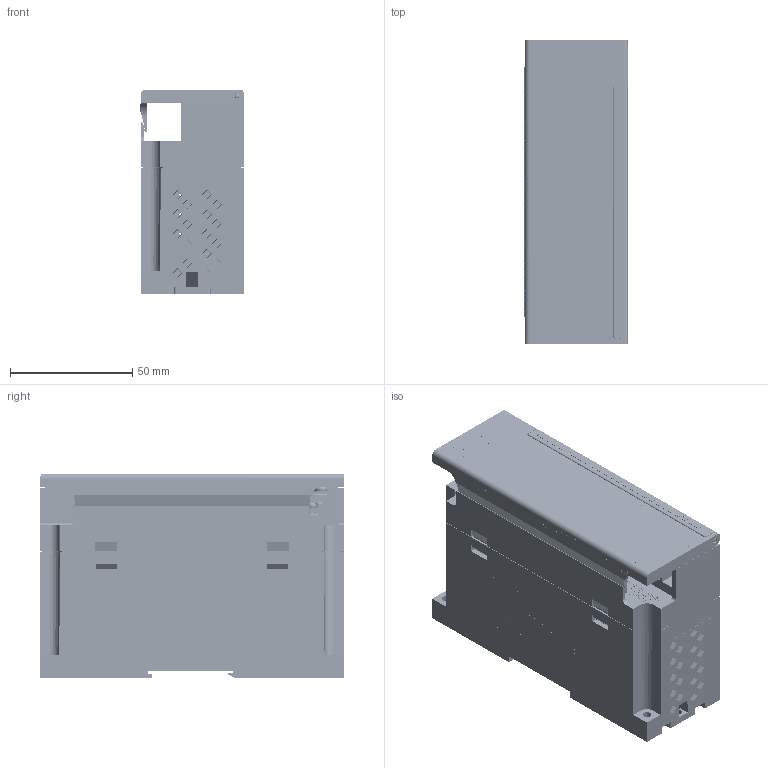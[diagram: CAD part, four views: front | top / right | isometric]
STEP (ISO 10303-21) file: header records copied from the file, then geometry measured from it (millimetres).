
FILE_DESCRIPTION (( 'STEP AP203' ), '1' );
FILE_NAME ('3d_model_mu210-502.STEP', '2023-06-07T14:44:27', ( '' ), ( '' ), 'SwSTEP 2.0', 'SolidWorks 2019', '' );
FILE_SCHEMA (( 'CONFIG_CONTROL_DESIGN' ));
Length unit declared in the file: millimetre
Products named in the file (102): 77-12.STEP; 103.STEP; 119_5.STEP; 123.STEP; 91.STEP; 97_3.STEP; 77-5.STEP; 76.STEP; 119.STEP; 77-6.STEP; 124.STEP; 111_5.STEP; 100.STEP; 119_9.STEP; 77-9.STEP; 106.STEP; 77-3.STEP; 3d_model_mu210-502.STEP; 77-10.STEP; 111_4.STEP; 90.STEP; 93.STEP; 77-1.STEP; 122.STEP; 111_6.STEP; 103-1.STEP; 119_4.STEP; 72.STEP; 89.STEP; 97_2.STEP; 80.STEP; 67.STEP; 94.STEP; 119_8.STEP; 77-4.STEP; 77-7.STEP; 3d_model_mu210-502; 97_4.STEP; 116.STEP; 99.STEP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
Assembly tree (296 placements, depth 9):
  3d_model_mu210-502
    3d_model_mu210-502.STEP
      68.STEP
        70.STEP
          71.STEP
            72.STEP
              73.STEP
              74.STEP  x5
              75.STEP
          76.STEP
            77.STEP
              78.STEP
              79.STEP
              80.STEP
              81.STEP
              82.STEP
          83.STEP
            77-1.STEP
              78.STEP
              79.STEP
              80.STEP
              81.STEP
              82.STEP
          84.STEP
            77-2.STEP
              78.STEP
              79.STEP
              80.STEP
              81.STEP
              82.STEP
          85.STEP
            77-3.STEP
              78.STEP
              79.STEP
              80.STEP
              81.STEP
              82.STEP
          86.STEP
            77-4.STEP
              78.STEP
              79.STEP
              80.STEP
              81.STEP
              82.STEP
          87.STEP
            77-5.STEP
              78.STEP
              79.STEP
              80.STEP
              81.STEP
              82.STEP
          89.STEP
            90.STEP
          91.STEP
            77-6.STEP
              78.STEP
              79.STEP
              80.STEP
              81.STEP
              82.STEP
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Bounding box: 42.15 x 124.15 x 83.6 mm (x, y, z)
Volume: 138414.9 mm3; surface area: 183725.2 mm2
Topology: 229 solids, 245 shells, 23795 faces, 66976 edges, 44314 vertices
Faces by surface type: plane 20070, cylinder 2659, bspline 543, cone 423, torus 96, sphere 4
Entity records: 577077 total; most frequent: CARTESIAN_POINT 110828, ORIENTED_EDGE 98652, DIRECTION 83842, EDGE_CURVE 49327, VECTOR 44862, LINE 44862, VERTEX_POINT 32822, AXIS2_PLACEMENT_3D 19490
